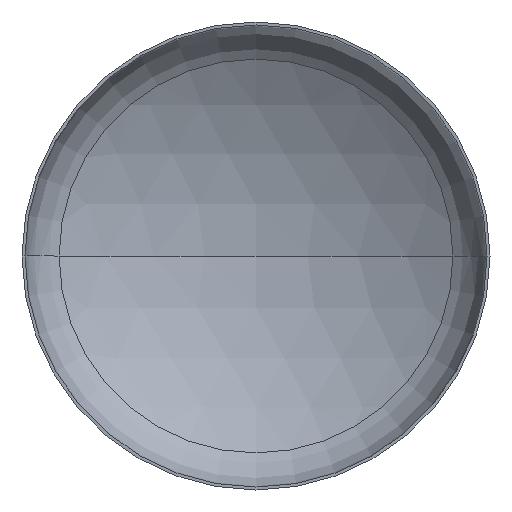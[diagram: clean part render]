
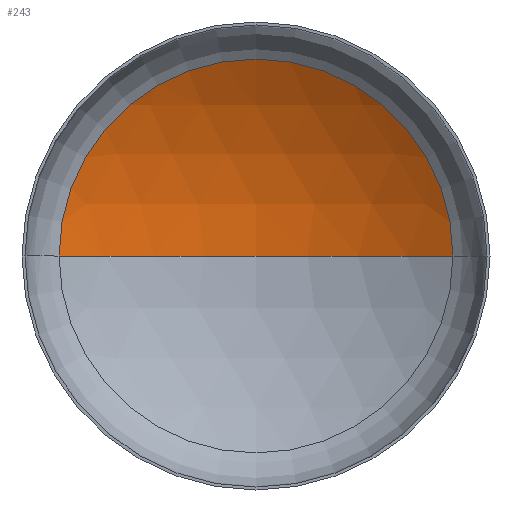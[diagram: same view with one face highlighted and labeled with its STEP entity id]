
A CAD part, front view. The second image highlights one B-rep face of the part: STEP entity #243.
In plain terms, the highlighted spherical face has radius 5200 mm.
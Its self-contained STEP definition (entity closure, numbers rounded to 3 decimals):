
#9 = DIRECTION ( 'NONE',  ( -1., 0., 0. ) ) ;
#10 = DIRECTION ( 'NONE',  ( 0., 0., -1. ) ) ;
#24 = AXIS2_PLACEMENT_3D ( 'NONE', #383, #379, #137 ) ;
#29 = VERTEX_POINT ( 'NONE', #254 ) ;
#44 = ORIENTED_EDGE ( 'NONE', *, *, #117, .F. ) ;
#48 = AXIS2_PLACEMENT_3D ( 'NONE', #328, #145, #180 ) ;
#50 = AXIS2_PLACEMENT_3D ( 'NONE', #208, #10, #9 ) ;
#55 = AXIS2_PLACEMENT_3D ( 'NONE', #259, #407, #405 ) ;
#97 = VERTEX_POINT ( 'NONE', #309 ) ;
#107 = VERTEX_POINT ( 'NONE', #360 ) ;
#114 = EDGE_CURVE ( 'NONE', #29, #97, #320, .T. ) ;
#116 = EDGE_CURVE ( 'NONE', #107, #29, #257, .T. ) ;
#117 = EDGE_CURVE ( 'NONE', #107, #97, #191, .T. ) ;
#137 = DIRECTION ( 'NONE',  ( -1., 0., 0. ) ) ;
#145 = DIRECTION ( 'NONE',  ( 0., 0., 1. ) ) ;
#152 = ORIENTED_EDGE ( 'NONE', *, *, #114, .T. ) ;
#159 = EDGE_LOOP ( 'NONE', ( #44, #222, #152 ) ) ;
#180 = DIRECTION ( 'NONE',  ( 1., 0., 0. ) ) ;
#191 = CIRCLE ( 'NONE', #48, 5200. ) ;
#208 = CARTESIAN_POINT ( 'NONE',  ( 0., -3442.159, 0. ) ) ;
#222 = ORIENTED_EDGE ( 'NONE', *, *, #116, .T. ) ;
#243 = ADVANCED_FACE ( 'NONE', ( #406 ), #359, .F. ) ;
#254 = CARTESIAN_POINT ( 'NONE',  ( 2734.952, 980.514, 0. ) ) ;
#257 = CIRCLE ( 'NONE', #50, 5200. ) ;
#259 = CARTESIAN_POINT ( 'NONE',  ( 0., 980.514, 0. ) ) ;
#309 = CARTESIAN_POINT ( 'NONE',  ( -2734.952, 980.514, 0. ) ) ;
#320 = CIRCLE ( 'NONE', #55, 2734.952 ) ;
#328 = CARTESIAN_POINT ( 'NONE',  ( 0., -3442.159, 0. ) ) ;
#359 = SPHERICAL_SURFACE ( 'NONE', #24, 5200. ) ;
#360 = CARTESIAN_POINT ( 'NONE',  ( 0., 1757.841, 0. ) ) ;
#379 = DIRECTION ( 'NONE',  ( 0., 0., -1. ) ) ;
#383 = CARTESIAN_POINT ( 'NONE',  ( 0., -3442.159, 0. ) ) ;
#405 = DIRECTION ( 'NONE',  ( 1., 0., 0. ) ) ;
#406 = FACE_OUTER_BOUND ( 'NONE', #159, .T. ) ;
#407 = DIRECTION ( 'NONE',  ( 0., -1., 0. ) ) ;
